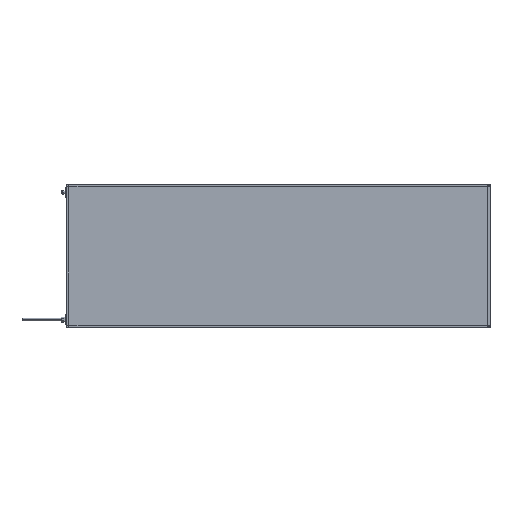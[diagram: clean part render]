
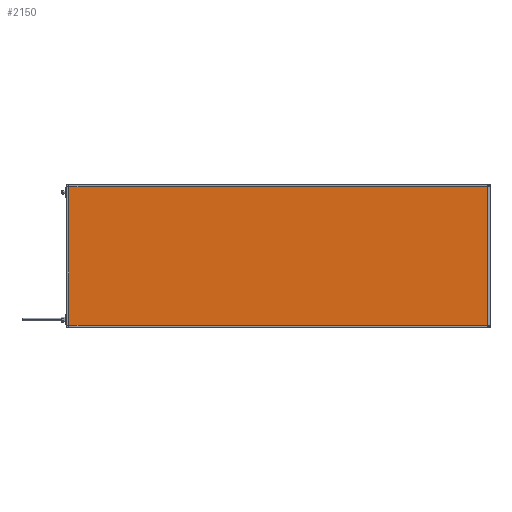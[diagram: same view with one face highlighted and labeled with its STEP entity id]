
A CAD part, top view. The second image highlights one B-rep face of the part: STEP entity #2150.
In plain terms, the highlighted planar face has unit normal (0, 0, 1).
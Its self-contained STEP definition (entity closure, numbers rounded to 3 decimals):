
#972 = FACE_OUTER_BOUND ( 'NONE', #3607, .T. ) ;
#1725 = VECTOR ( 'NONE', #15761, 1000. ) ;
#1815 = VERTEX_POINT ( 'NONE', #15710 ) ;
#1817 = VERTEX_POINT ( 'NONE', #6139 ) ;
#2150 = ADVANCED_FACE ( 'NONE', ( #972 ), #16125, .F. ) ;
#3198 = CARTESIAN_POINT ( 'NONE',  ( 1496., 0., 41.85 ) ) ;
#3227 = DIRECTION ( 'NONE',  ( -1., 0., 0. ) ) ;
#3371 = CARTESIAN_POINT ( 'NONE',  ( 1496., 496., 41.85 ) ) ;
#3607 = EDGE_LOOP ( 'NONE', ( #13397, #8500, #6538, #4596 ) ) ;
#4368 = VECTOR ( 'NONE', #3227, 1000. ) ;
#4596 = ORIENTED_EDGE ( 'NONE', *, *, #7342, .T. ) ;
#4646 = CARTESIAN_POINT ( 'NONE',  ( 4., 0., 41.85 ) ) ;
#5935 = CARTESIAN_POINT ( 'NONE',  ( 0., 4., 41.85 ) ) ;
#6139 = CARTESIAN_POINT ( 'NONE',  ( 4., 4., 41.85 ) ) ;
#6538 = ORIENTED_EDGE ( 'NONE', *, *, #9478, .T. ) ;
#6546 = CARTESIAN_POINT ( 'NONE',  ( 0., 0., 41.85 ) ) ;
#6554 = VERTEX_POINT ( 'NONE', #3371 ) ;
#7342 = EDGE_CURVE ( 'NONE', #1817, #11810, #9758, .T. ) ;
#7390 = DIRECTION ( 'NONE',  ( 0., 1., 0. ) ) ;
#8500 = ORIENTED_EDGE ( 'NONE', *, *, #10969, .T. ) ;
#8519 = LINE ( 'NONE', #14083, #4368 ) ;
#9228 = EDGE_CURVE ( 'NONE', #11810, #6554, #14501, .T. ) ;
#9272 = VECTOR ( 'NONE', #7390, 1000. ) ;
#9478 = EDGE_CURVE ( 'NONE', #1815, #1817, #17140, .T. ) ;
#9597 = CARTESIAN_POINT ( 'NONE',  ( 1496., 4., 41.85 ) ) ;
#9758 = LINE ( 'NONE', #5935, #10127 ) ;
#10127 = VECTOR ( 'NONE', #11223, 1000. ) ;
#10969 = EDGE_CURVE ( 'NONE', #6554, #1815, #8519, .T. ) ;
#11223 = DIRECTION ( 'NONE',  ( 1., 0., 0. ) ) ;
#11810 = VERTEX_POINT ( 'NONE', #9597 ) ;
#12106 = DIRECTION ( 'NONE',  ( 0., 0., -1. ) ) ;
#13295 = DIRECTION ( 'NONE',  ( -1., 0., 0. ) ) ;
#13397 = ORIENTED_EDGE ( 'NONE', *, *, #9228, .T. ) ;
#14083 = CARTESIAN_POINT ( 'NONE',  ( 0., 496., 41.85 ) ) ;
#14420 = AXIS2_PLACEMENT_3D ( 'NONE', #6546, #12106, #13295 ) ;
#14501 = LINE ( 'NONE', #3198, #9272 ) ;
#15710 = CARTESIAN_POINT ( 'NONE',  ( 4., 496., 41.85 ) ) ;
#15761 = DIRECTION ( 'NONE',  ( 0., -1., 0. ) ) ;
#16125 = PLANE ( 'NONE',  #14420 ) ;
#17140 = LINE ( 'NONE', #4646, #1725 ) ;
